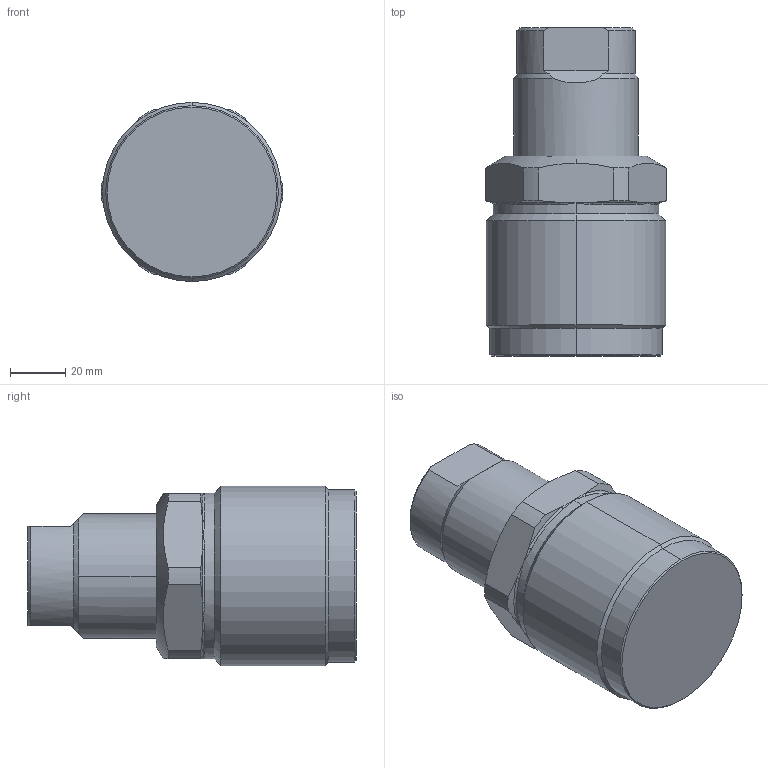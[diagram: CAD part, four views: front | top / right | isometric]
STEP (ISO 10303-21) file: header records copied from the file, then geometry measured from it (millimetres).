
FILE_DESCRIPTION((' '),'2;1');
FILE_NAME( 'TGM40-25.x_t.stp', '2024-08-27T13:43:53', (' '), ('--- Datakit www.datakit.com---'), ' Datakit CrossCadWare V2024.1 Dec 21 2023', 'Mastercam 2025', ' ');
FILE_SCHEMA(('AUTOMOTIVE_DESIGN { 1 0 10303 214 1 1 1 1 }'));
Length unit declared in the file: millimetre
Products named in the file (1): TGM40-25
Bounding box: 65.97 x 119 x 65 mm (x, y, z)
Volume: 253943.7 mm3; surface area: 34938.3 mm2
Topology: 2 solids, 2 shells, 79 faces, 196 edges, 111 vertices
Faces by surface type: cylinder 22, cone 22, plane 17, bspline 12, torus 6
Entity records: 4153 total; most frequent: CARTESIAN_POINT 2393, ORIENTED_EDGE 364, DIRECTION 358, EDGE_CURVE 182, AXIS2_PLACEMENT_3D 156, VERTEX_POINT 111, EDGE_LOOP 83, FACE_OUTER_BOUND 79
